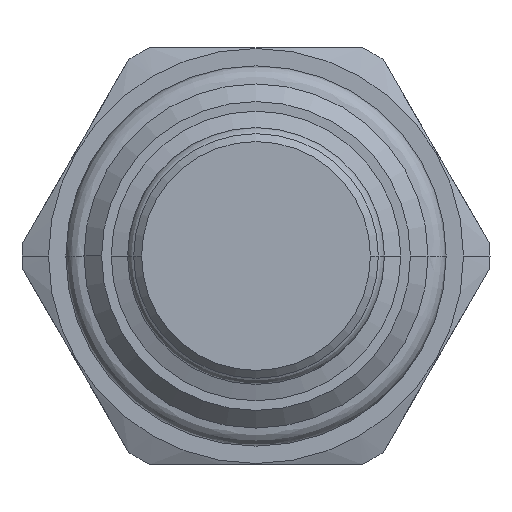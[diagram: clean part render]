
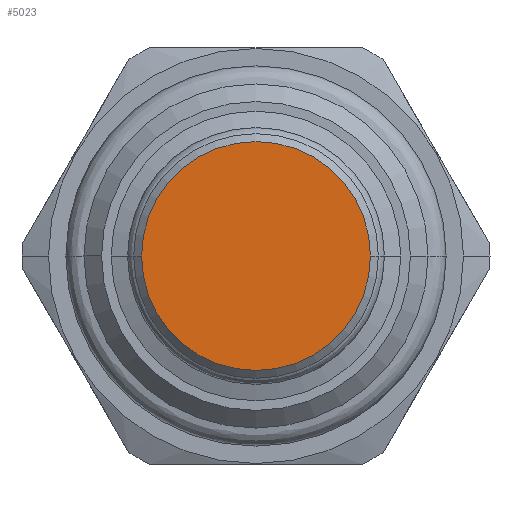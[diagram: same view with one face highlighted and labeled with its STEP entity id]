
A CAD part, front view. The second image highlights one B-rep face of the part: STEP entity #5023.
In plain terms, the highlighted planar face has unit normal (0, -1, 0).
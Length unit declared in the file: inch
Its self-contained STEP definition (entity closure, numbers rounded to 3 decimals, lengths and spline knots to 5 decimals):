
#1857=CARTESIAN_POINT('',(0.,-0.738,0.));
#1858=DIRECTION('',(0.,-1.,0.));
#1859=DIRECTION('',(-1.,0.,0.));
#1860=AXIS2_PLACEMENT_3D('',#1857,#1858,#1859);
#1862=CARTESIAN_POINT('',(0.,-0.738,0.));
#1863=DIRECTION('',(0.,-1.,0.));
#1864=DIRECTION('',(1.,0.,0.));
#1865=AXIS2_PLACEMENT_3D('',#1862,#1863,#1864);
#3247=CARTESIAN_POINT('',(-0.291,-0.738,0.));
#3248=CARTESIAN_POINT('',(0.291,-0.738,0.));
#3249=VERTEX_POINT('',#3247);
#3250=VERTEX_POINT('',#3248);
#5013=CARTESIAN_POINT('',(0.,-0.738,0.));
#5014=DIRECTION('',(0.,1.,0.));
#5015=DIRECTION('',(1.,0.,0.));
#5016=AXIS2_PLACEMENT_3D('',#5013,#5014,#5015);
#5017=PLANE('',#5016);
#5019=ORIENTED_EDGE('',*,*,#5018,.F.);
#5020=ORIENTED_EDGE('',*,*,#5003,.F.);
#5021=EDGE_LOOP('',(#5019,#5020));
#5022=FACE_OUTER_BOUND('',#5021,.F.);
#5023=ADVANCED_FACE('',(#5022),#5017,.F.);
#1861=CIRCLE('',#1860,0.291);
#1866=CIRCLE('',#1865,0.291);
#5003=EDGE_CURVE('',#3250,#3249,#1866,.T.);
#5018=EDGE_CURVE('',#3249,#3250,#1861,.T.);
